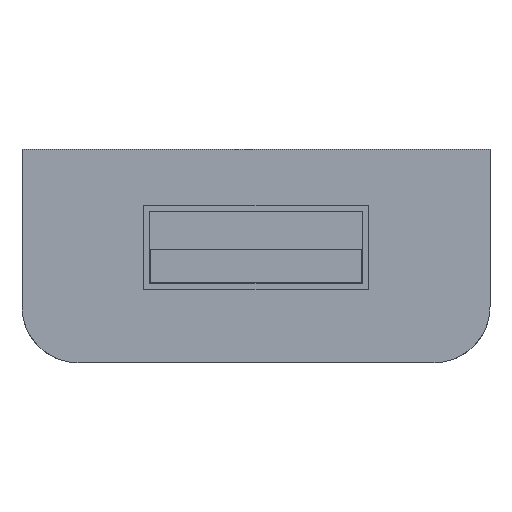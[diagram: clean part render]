
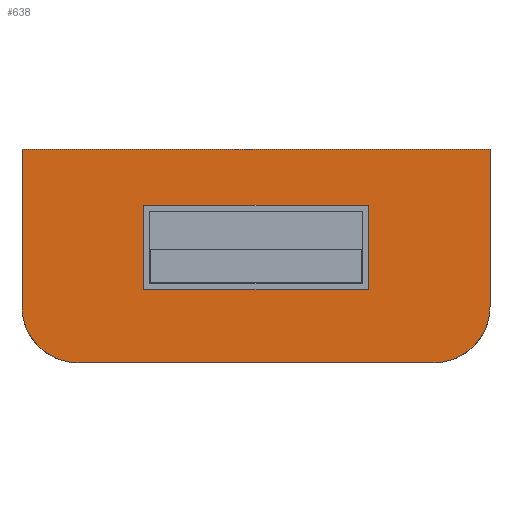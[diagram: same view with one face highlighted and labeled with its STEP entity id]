
A CAD part, front view. The second image highlights one B-rep face of the part: STEP entity #638.
In plain terms, the highlighted planar face has unit normal (0, -1, 0).
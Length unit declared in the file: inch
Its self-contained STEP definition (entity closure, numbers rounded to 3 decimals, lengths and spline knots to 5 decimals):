
#47 = FACE_OUTER_BOUND ( 'NONE', #395, .T. ) ;
#51 = FACE_BOUND ( 'NONE', #391, .T. ) ;
#391 = EDGE_LOOP ( 'NONE', ( #413, #411, #414, #415 ) ) ;
#395 = EDGE_LOOP ( 'NONE', ( #407, #405, #408, #409, #410, #412 ) ) ;
#405 = ORIENTED_EDGE ( 'NONE', *, *, #1040, .T. ) ;
#407 = ORIENTED_EDGE ( 'NONE', *, *, #1041, .T. ) ;
#408 = ORIENTED_EDGE ( 'NONE', *, *, #1037, .T. ) ;
#409 = ORIENTED_EDGE ( 'NONE', *, *, #1042, .T. ) ;
#410 = ORIENTED_EDGE ( 'NONE', *, *, #1038, .F. ) ;
#411 = ORIENTED_EDGE ( 'NONE', *, *, #1043, .F. ) ;
#412 = ORIENTED_EDGE ( 'NONE', *, *, #1039, .F. ) ;
#413 = ORIENTED_EDGE ( 'NONE', *, *, #1044, .F. ) ;
#414 = ORIENTED_EDGE ( 'NONE', *, *, #1046, .F. ) ;
#415 = ORIENTED_EDGE ( 'NONE', *, *, #1045, .F. ) ;
#461 = CARTESIAN_POINT ( 'NONE',  ( 0.23625, -1.375, -0.07 ) ) ;
#491 = CARTESIAN_POINT ( 'NONE',  ( -0.493, -1.375, 0.225 ) ) ;
#492 = CARTESIAN_POINT ( 'NONE',  ( -0.493, -1.375, -0.10689 ) ) ;
#493 = CARTESIAN_POINT ( 'NONE',  ( -0.37489, -1.375, -0.225 ) ) ;
#494 = CARTESIAN_POINT ( 'NONE',  ( 0.37489, -1.375, -0.225 ) ) ;
#495 = CARTESIAN_POINT ( 'NONE',  ( 0.493, -1.375, -0.10689 ) ) ;
#496 = CARTESIAN_POINT ( 'NONE',  ( 0.493, -1.375, 0.225 ) ) ;
#497 = CARTESIAN_POINT ( 'NONE',  ( -0.23625, -1.375, 0.107 ) ) ;
#498 = CARTESIAN_POINT ( 'NONE',  ( -0.23625, -1.375, -0.07 ) ) ;
#499 = CARTESIAN_POINT ( 'NONE',  ( 0.23625, -1.375, 0.107 ) ) ;
#638 = ADVANCED_FACE ( 'NONE', ( #47, #51 ), #692, .F. ) ;
#692 = PLANE ( 'NONE',  #1127 ) ;
#693 = CARTESIAN_POINT ( 'NONE',  ( -0.493, -1.375, 0.225 ) ) ;
#697 = DIRECTION ( 'NONE',  ( 0., 1., 0. ) ) ;
#698 = DIRECTION ( 'NONE',  ( 0., 0., 1. ) ) ;
#1037 = EDGE_CURVE ( 'NONE', #1675, #1676, #1530, .T. ) ;
#1038 = EDGE_CURVE ( 'NONE', #1678, #1677, #1532, .T. ) ;
#1039 = EDGE_CURVE ( 'NONE', #1673, #1678, #1538, .T. ) ;
#1040 = EDGE_CURVE ( 'NONE', #1674, #1675, #1547, .T. ) ;
#1041 = EDGE_CURVE ( 'NONE', #1673, #1674, #1543, .T. ) ;
#1042 = EDGE_CURVE ( 'NONE', #1676, #1677, #1550, .T. ) ;
#1043 = EDGE_CURVE ( 'NONE', #1681, #1679, #1545, .T. ) ;
#1044 = EDGE_CURVE ( 'NONE', #1679, #1680, #1551, .T. ) ;
#1045 = EDGE_CURVE ( 'NONE', #1680, #1659, #1553, .T. ) ;
#1046 = EDGE_CURVE ( 'NONE', #1659, #1681, #1555, .T. ) ;
#1127 = AXIS2_PLACEMENT_3D ( 'NONE', #693, #697, #698 ) ;
#1140 = AXIS2_PLACEMENT_3D ( 'NONE', #1404, #1406, #1407 ) ;
#1142 = AXIS2_PLACEMENT_3D ( 'NONE', #1402, #1411, #1412 ) ;
#1394 = DIRECTION ( 'NONE',  ( 1., 0., 0. ) ) ;
#1397 = CARTESIAN_POINT ( 'NONE',  ( -0.493, -1.375, -0.225 ) ) ;
#1399 = CARTESIAN_POINT ( 'NONE',  ( 0.493, -1.375, 0.225 ) ) ;
#1400 = CARTESIAN_POINT ( 'NONE',  ( -0.493, -1.375, 0.225 ) ) ;
#1401 = DIRECTION ( 'NONE',  ( 0., 0., -1. ) ) ;
#1402 = CARTESIAN_POINT ( 'NONE',  ( 0.37489, -1.375, -0.10689 ) ) ;
#1403 = DIRECTION ( 'NONE',  ( 1., 0., 0. ) ) ;
#1404 = CARTESIAN_POINT ( 'NONE',  ( -0.37489, -1.375, -0.10689 ) ) ;
#1406 = DIRECTION ( 'NONE',  ( 0., -1., 0. ) ) ;
#1407 = DIRECTION ( 'NONE',  ( 0., 0., 1. ) ) ;
#1408 = CARTESIAN_POINT ( 'NONE',  ( -0.493, -1.375, 0.225 ) ) ;
#1409 = DIRECTION ( 'NONE',  ( 0., 0., -1. ) ) ;
#1411 = DIRECTION ( 'NONE',  ( 0., -1., 0. ) ) ;
#1412 = DIRECTION ( 'NONE',  ( 0., 0., 1. ) ) ;
#1413 = CARTESIAN_POINT ( 'NONE',  ( -0.23625, -1.375, 0.107 ) ) ;
#1414 = DIRECTION ( 'NONE',  ( -1., 0., 0. ) ) ;
#1415 = CARTESIAN_POINT ( 'NONE',  ( -0.23625, -1.375, 0.107 ) ) ;
#1416 = DIRECTION ( 'NONE',  ( 0., 0., -1. ) ) ;
#1417 = CARTESIAN_POINT ( 'NONE',  ( -0.23625, -1.375, -0.07 ) ) ;
#1418 = DIRECTION ( 'NONE',  ( 1., 0., 0. ) ) ;
#1419 = CARTESIAN_POINT ( 'NONE',  ( 0.23625, -1.375, 0.107 ) ) ;
#1420 = DIRECTION ( 'NONE',  ( 0., 0., 1. ) ) ;
#1530 = LINE ( 'NONE', #1397, #1539 ) ;
#1532 = LINE ( 'NONE', #1399, #1540 ) ;
#1538 = LINE ( 'NONE', #1400, #1542 ) ;
#1539 = VECTOR ( 'NONE', #1394, 39.37008 ) ;
#1540 = VECTOR ( 'NONE', #1401, 39.37008 ) ;
#1541 = VECTOR ( 'NONE', #1409, 39.37008 ) ;
#1542 = VECTOR ( 'NONE', #1403, 39.37008 ) ;
#1543 = LINE ( 'NONE', #1408, #1541 ) ;
#1545 = LINE ( 'NONE', #1413, #1546 ) ;
#1546 = VECTOR ( 'NONE', #1414, 39.37008 ) ;
#1547 = CIRCLE ( 'NONE', #1140, 0.11811 ) ;
#1550 = CIRCLE ( 'NONE', #1142, 0.11811 ) ;
#1551 = LINE ( 'NONE', #1415, #1552 ) ;
#1552 = VECTOR ( 'NONE', #1416, 39.37008 ) ;
#1553 = LINE ( 'NONE', #1417, #1554 ) ;
#1554 = VECTOR ( 'NONE', #1418, 39.37008 ) ;
#1555 = LINE ( 'NONE', #1419, #1556 ) ;
#1556 = VECTOR ( 'NONE', #1420, 39.37008 ) ;
#1659 = VERTEX_POINT ( 'NONE', #461 ) ;
#1673 = VERTEX_POINT ( 'NONE', #491 ) ;
#1674 = VERTEX_POINT ( 'NONE', #492 ) ;
#1675 = VERTEX_POINT ( 'NONE', #493 ) ;
#1676 = VERTEX_POINT ( 'NONE', #494 ) ;
#1677 = VERTEX_POINT ( 'NONE', #495 ) ;
#1678 = VERTEX_POINT ( 'NONE', #496 ) ;
#1679 = VERTEX_POINT ( 'NONE', #497 ) ;
#1680 = VERTEX_POINT ( 'NONE', #498 ) ;
#1681 = VERTEX_POINT ( 'NONE', #499 ) ;
